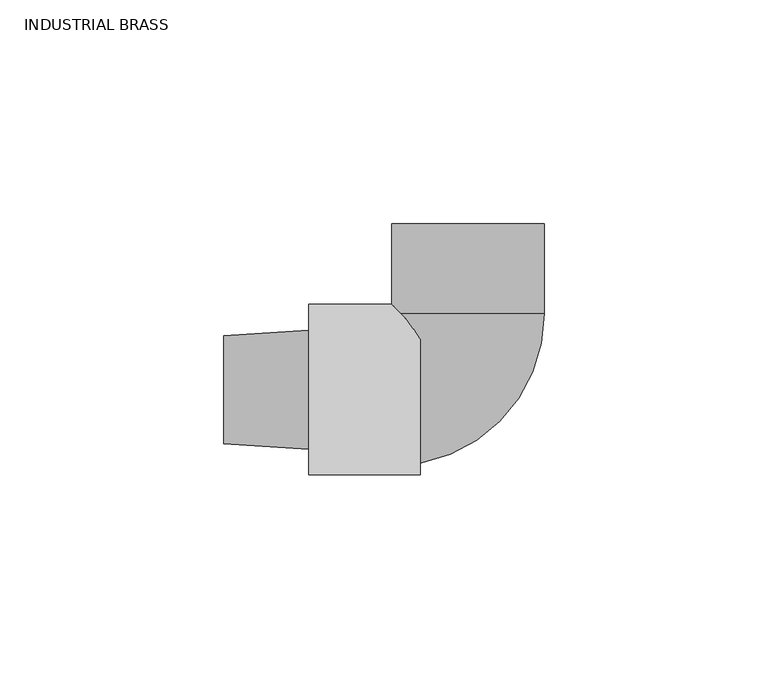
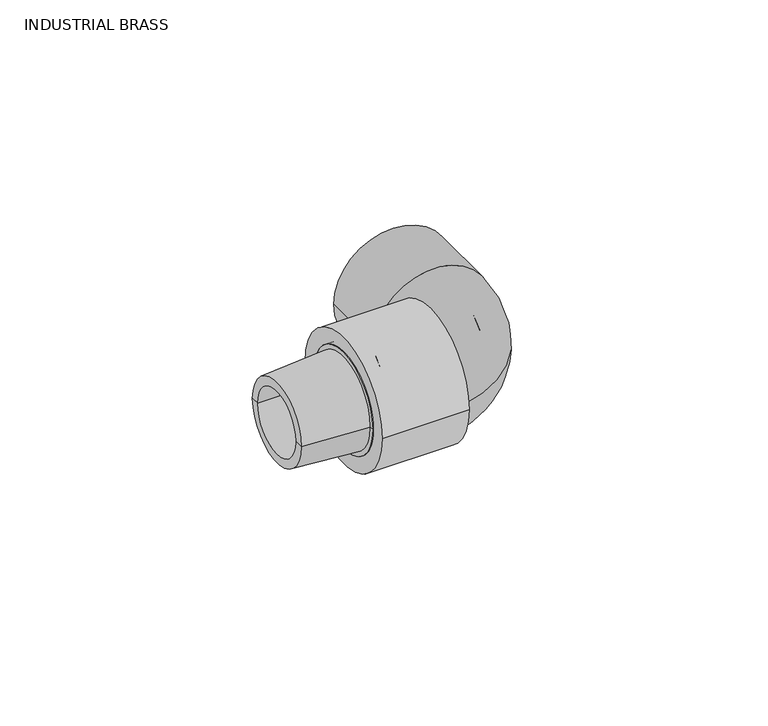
"""IFC4 building model written with IfcOpenShell, lengths in millimetres: valve geometry, Aquatherm - Elbow Transition PPR to M NPT : INDUSTRIAL BRASS."""

from ifc_helpers import new_model, si_unit, point, frame, origin, origin_2d, place, context, project, spatial, polyline, circle_curve, ellipse_curve, trimmed, segment, composite_curve, outline, extrude, source, transform, mapped, element, save
from ifc_brep_helpers import plane_surface, cylinder_surface, revolved_surface, advanced_brep


def industrial_brass_e79f0bbb(model_context):
    return source(origin(), model_context, "Body", "SolidModel", [
        advanced_brep(
        [(-16.51, -9.525, 0.0), (-16.51, 9.525, 0.0), (-54.61, 9.525, 0.0), (-54.61, -9.525, 0.0), (-16.51, -14.5851563, 0.0), (-16.51, 14.5851562, 0.0), (-35.56, -14.5851563, 0.0), (-35.56, 14.5851562, 0.0), (-54.61, 12.0943357, 0.0), (-54.61, -12.0943357, 0.0), (-35.56, -13.3100212, 0.0), (-35.56, 13.3100212, 0.0)],
        [
            (0, 1, circle_curve(frame((-16.51, 0.0, 0.0), z_axis=(1.0, 0.0, 0.0), x_axis=(0.0, 1.0, 0.0)), 9.525)),
            (1, 2),
            (2, 3, circle_curve(frame((-54.61, 0.0, 0.0), z_axis=(-1.0, 0.0, 0.0), x_axis=(0.0, 1.0, 0.0)), 9.525)),
            (3, 0),
            (1, 0, circle_curve(frame((-16.51, 0.0, 0.0), z_axis=(1.0, 0.0, 0.0), x_axis=(0.0, 1.0, 0.0)), 9.525)),
            (3, 2, circle_curve(frame((-54.61, 0.0, 0.0), z_axis=(-1.0, 0.0, 0.0), x_axis=(0.0, 1.0, 0.0)), 9.525)),
            (4, 5, circle_curve(frame((-16.51, 0.0, 0.0), z_axis=(1.0, 0.0, 0.0), x_axis=(0.0, 1.0, 0.0)), 14.5851563)),
            (5, 1),
            (0, 4),
            (5, 4, circle_curve(frame((-16.51, 0.0, 0.0), z_axis=(1.0, 0.0, 0.0), x_axis=(0.0, 1.0, 0.0)), 14.5851563)),
            (6, 7, circle_curve(frame((-35.56, 0.0, 0.0), z_axis=(1.0, 0.0, 0.0), x_axis=(0.0, 1.0, 0.0)), 14.5851563)),
            (7, 5),
            (4, 6),
            (7, 6, circle_curve(frame((-35.56, 0.0, 0.0), z_axis=(1.0, 0.0, 0.0), x_axis=(0.0, 1.0, 0.0)), 14.5851563)),
            (2, 8),
            (8, 9, circle_curve(frame((-54.61, 0.0, 0.0), z_axis=(-1.0, 0.0, 0.0), x_axis=(0.0, 1.0, 0.0)), 12.0943357)),
            (9, 3),
            (9, 8, circle_curve(frame((-54.61, 0.0, 0.0), z_axis=(-1.0, 0.0, 0.0), x_axis=(0.0, 1.0, 0.0)), 12.0943357)),
            (10, 11, circle_curve(frame((-35.56, 0.0, 0.0), z_axis=(1.0, 0.0, 0.0), x_axis=(0.0, 1.0, 0.0)), 13.3100212)),
            (11, 7),
            (6, 10),
            (11, 10, circle_curve(frame((-35.56, 0.0, 0.0), z_axis=(1.0, 0.0, 0.0), x_axis=(0.0, 1.0, 0.0)), 13.3100212)),
            (8, 11),
            (10, 9),
        ],
        [
            revolved_surface(polyline([(-54.61, 9.525, 0.0), (-16.509999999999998, 9.525, 0.0)]), (-56.4432251, 0.0, 0.0), (-1.0, 0.0, 0.0)),
            plane_surface(frame((-16.51, 0.0, 0.0), z_axis=(1.0, 0.0, 0.0), x_axis=(0.0, 1.0, 0.0))),
            cylinder_surface(frame((-56.4432251, 0.0, 0.0), z_axis=(-1.0, 0.0, 0.0), x_axis=(0.0, 1.0, 0.0)), 14.5851563),
            plane_surface(frame((-54.61, 0.0, 0.0), z_axis=(-1.0, 0.0, 0.0), x_axis=(0.0, 1.0, 0.0))),
            plane_surface(frame((-35.56, 0.0, 0.0), z_axis=(-1.0, 0.0, 0.0), x_axis=(0.0, 1.0, 0.0))),
            revolved_surface(polyline([(-35.56, 13.3100212, 0.0), (-54.61, 12.0943357, 0.0)]), (-56.4432251, 0.0, 0.0), (-1.0, 0.0, 0.0)),
        ],
        [
            (0, [[1, 2, 3, 4]]),
            (0, [[5, -4, 6, -2]]),
            (1, [[7, 8, -1, 9]]),
            (1, [[10, -9, -5, -8]]),
            (2, [[11, 12, -7, 13]]),
            (2, [[14, -13, -10, -12]]),
            (3, [[-3, 15, 16, 17]]),
            (3, [[-6, -17, 18, -15]]),
            (4, [[19, 20, -11, 21]]),
            (4, [[22, -21, -14, -20]]),
            (5, [[-16, 23, -19, 24]]),
            (5, [[-18, -24, -22, -23]]),
        ],
    ),
        advanced_brep(
        [(17.018, 17.018, 0.0), (-17.018, 17.018, 0.0), (9.525, 17.018, 0.0), (-9.525, 17.018, 0.0), (-17.018, -17.018, 0.0), (-17.018, -9.525, 0.0), (-17.018, 9.525, 0.0)],
        [
            (0, 1, circle_curve(frame((0.0, 17.018, 0.0), z_axis=(0.0, 1.0, 0.0), x_axis=(-1.0, 0.0, 0.0)), 17.018)),
            (1, 0, circle_curve(frame((0.0, 17.018, 0.0), z_axis=(0.0, 1.0, 0.0), x_axis=(-1.0, 0.0, 0.0)), 17.018)),
            (2, 3, circle_curve(frame((0.0, 17.018, 0.0), z_axis=(0.0, -1.0, 0.0), x_axis=(-1.0, 0.0, 0.0)), 9.525)),
            (3, 2, circle_curve(frame((0.0, 17.018, 0.0), z_axis=(0.0, -1.0, 0.0), x_axis=(-1.0, 0.0, 0.0)), 9.525)),
            (4, 1, circle_curve(frame((-17.018, 0.0, 0.0), z_axis=(-1.0, 0.0, 0.0), x_axis=(0.0, 1.0, 0.0)), 17.018)),
            (1, 4, circle_curve(frame((-17.018, 0.0, 0.0), z_axis=(-1.0, 0.0, 0.0), x_axis=(0.0, 1.0, 0.0)), 17.018)),
            (5, 6, circle_curve(frame((-17.018, 0.0, 0.0), z_axis=(1.0, 0.0, 0.0), x_axis=(0.0, 1.0, 0.0)), 9.525)),
            (6, 5, circle_curve(frame((-17.018, 0.0, 0.0), z_axis=(1.0, 0.0, 0.0), x_axis=(0.0, 1.0, 0.0)), 9.525)),
            (0, 4, circle_curve(frame((-17.018, 17.018, 0.0), z_axis=(0.0, 0.0, -1.0), x_axis=(1.0, 0.0, 0.0)), 34.036)),
            (6, 3, circle_curve(frame((-17.018, 17.018, 0.0), z_axis=(0.0, 0.0, 1.0), x_axis=(1.0, 0.0, 0.0)), 7.493)),
            (2, 5, circle_curve(frame((-17.018, 17.018, 0.0), z_axis=(0.0, 0.0, -1.0), x_axis=(1.0, 0.0, 0.0)), 26.543)),
        ],
        [
            plane_surface(frame((-17.018, 17.018, 41.9103543), z_axis=(0.0, 1.0, 0.0), x_axis=(1.0, 0.0, 0.0))),
            plane_surface(frame((-17.018, 17.018, 41.9103543), z_axis=(-1.0, 0.0, 0.0), x_axis=(0.0, -1.0, 0.0))),
            revolved_surface(trimmed(ellipse_curve(frame((0.0, 17.018, 0.0), z_axis=(0.0, 1.0, 0.0), x_axis=(-1.0, 0.0, 0.0)), 17.018, 17.018), [point((17.018, 17.018, 0.0))], [point((-17.018, 17.018, 0.0))], True, "CARTESIAN"), (-17.018, 17.018, 41.9103543), (0.0, 0.0, -1.0)),
            revolved_surface(trimmed(ellipse_curve(frame((0.0, 17.018, 0.0), z_axis=(0.0, 1.0, 0.0), x_axis=(-1.0, 0.0, 0.0)), 17.018, 17.018), [point((-17.018, 17.018, 0.0))], [point((17.018, 17.018, 0.0))], True, "CARTESIAN"), (-17.018, 17.018, 41.9103543), (0.0, 0.0, -1.0)),
            revolved_surface(trimmed(ellipse_curve(frame((0.0, 17.018, 0.0), z_axis=(0.0, -1.0, 0.0), x_axis=(-1.0, 0.0, 0.0)), 9.525, 9.525), [point((9.525, 17.018, 0.0))], [point((-9.525, 17.018, 0.0))], True, "CARTESIAN"), (-17.018, 17.018, 41.9103543), (0.0, 0.0, -1.0)),
            revolved_surface(trimmed(ellipse_curve(frame((0.0, 17.018, 0.0), z_axis=(0.0, -1.0, 0.0), x_axis=(-1.0, 0.0, 0.0)), 9.525, 9.525), [point((-9.525, 17.018, 0.0))], [point((9.525, 17.018, 0.0))], True, "CARTESIAN"), (-17.018, 17.018, 41.9103543), (0.0, 0.0, -1.0)),
        ],
        [
            (0, [[1, 2], [3, 4]]),
            (1, [[5, 6], [7, 8]]),
            (2, [[-1, 9, -6]]),
            (3, [[-9, -2, -5]]),
            (4, [[10, -3, 11, -8]]),
            (5, [[-11, -4, -10, -7]]),
        ],
    ),
        extrude(outline(composite_curve([segment(trimmed(circle_curve(origin_2d(), 17.018), [point((0.0, 17.018))], [point((0.0, -17.018))], False, "CARTESIAN"), True, "CONTINUOUS"), segment(trimmed(circle_curve(origin_2d(), 17.018), [point((0.0, -17.018))], [point((0.0, 17.018))], False, "CARTESIAN"), True, "CONTINUOUS")], self_intersect=False), holes=[composite_curve([segment(trimmed(circle_curve(origin_2d(), 12.446), [point((0.0, 12.446))], [point((0.0, -12.446))], True, "CARTESIAN"), True, "CONTINUOUS"), segment(trimmed(circle_curve(origin_2d(), 12.446), [point((0.0, -12.446))], [point((0.0, 12.446))], True, "CARTESIAN"), True, "CONTINUOUS")], self_intersect=False)]), frame((0.0, 17.018, 0.0), z_axis=(0.0, 1.0, 0.0), x_axis=(0.0, 0.0, 1.0)), (0.0, 0.0, 1.0), 20.066),
        extrude(outline(composite_curve([segment(trimmed(circle_curve(origin_2d(), 19.05), [point((-19.05, 0.0))], [point((19.05, 0.0))], False, "CARTESIAN"), True, "CONTINUOUS"), segment(trimmed(circle_curve(origin_2d(), 19.05), [point((19.05, 0.0))], [point((-19.05, 0.0))], False, "CARTESIAN"), True, "CONTINUOUS")], self_intersect=False), holes=[composite_curve([segment(trimmed(circle_curve(origin_2d(), 14.605), [point((-14.605, 0.0))], [point((14.605, 0.0))], True, "CARTESIAN"), True, "CONTINUOUS"), segment(trimmed(circle_curve(origin_2d(), 14.605), [point((14.605, 0.0))], [point((-14.605, 0.0))], True, "CARTESIAN"), True, "CONTINUOUS")], self_intersect=False)]), frame((-35.56, 0.0, 0.0), z_axis=(1.0, 0.0, 0.0), x_axis=(0.0, 1.0, 0.0)), (0.0, 0.0, 1.0), 24.892),
    ])


if __name__ == "__main__":
    model = new_model("IFC4")
    model_context = context("Model", 3, world=origin())
    ifc_project = project(units=[si_unit("LENGTHUNIT", "METRE", prefix="MILLI")], contexts=[model_context])
    site = spatial("IfcSite", under=ifc_project)
    building = spatial("IfcBuilding", under=site)
    placement = place(None, origin())
    industrial_brass_shape = industrial_brass_e79f0bbb(model_context)
    element("IfcValve", 1, ObjectType="Aquatherm - Elbow Transition PPR to M NPT : INDUSTRIAL BRASS", at=placement, inside=building, context=model_context, shape_type="MappedRepresentation", body=[
        mapped(industrial_brass_shape, transform((0.0, 0.0, 0.0), x_axis=(1.0, 0.0, 0.0), y_axis=(0.0, 1.0, 0.0), z_axis=(0.0, 0.0, 1.0))),
    ])
    save(model, "model.ifc")
